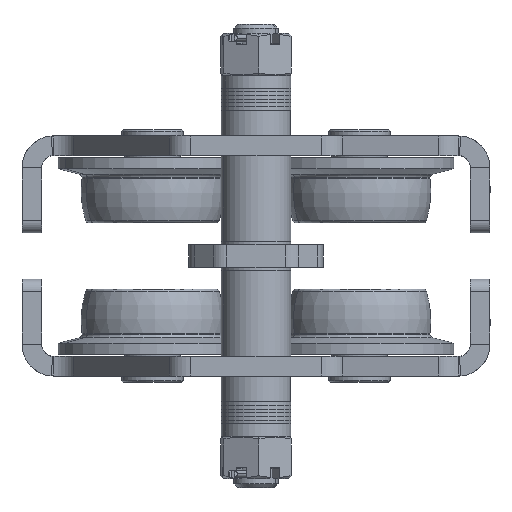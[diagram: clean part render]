
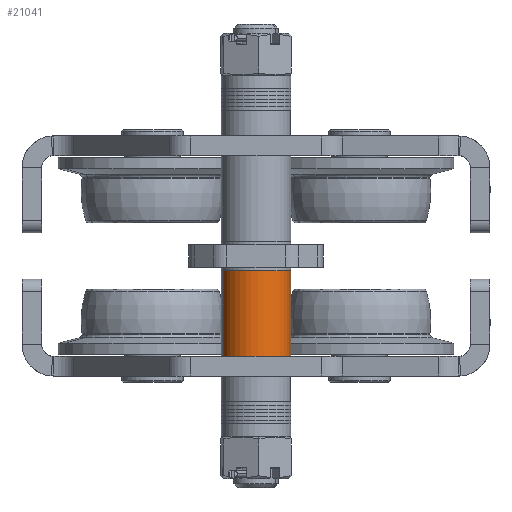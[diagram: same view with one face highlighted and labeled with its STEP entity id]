
A CAD part, front view. The second image highlights one B-rep face of the part: STEP entity #21041.
In plain terms, the highlighted cylindrical face has radius 28.5 mm (diameter 57 mm), a partial arc.
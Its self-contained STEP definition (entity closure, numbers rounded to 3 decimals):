
#42 = CARTESIAN_POINT ( 'NONE',  ( 131.571, -155.685, 140.191 ) ) ;
#2268 = AXIS2_PLACEMENT_3D ( 'NONE', #25465, #13002, #30977 ) ;
#2670 = VERTEX_POINT ( 'NONE', #42 ) ;
#5322 = ORIENTED_EDGE ( 'NONE', *, *, #9835, .F. ) ;
#5357 = DIRECTION ( 'NONE',  ( 0., 0., -1. ) ) ;
#5639 = CARTESIAN_POINT ( 'NONE',  ( 131.571, -155.685, 210.191 ) ) ;
#5930 = ORIENTED_EDGE ( 'NONE', *, *, #21381, .F. ) ;
#6710 = AXIS2_PLACEMENT_3D ( 'NONE', #18352, #5357, #17868 ) ;
#8757 = EDGE_CURVE ( 'NONE', #32628, #31227, #21386, .T. ) ;
#9457 = AXIS2_PLACEMENT_3D ( 'NONE', #21622, #15818, #13072 ) ;
#9568 = VERTEX_POINT ( 'NONE', #10896 ) ;
#9835 = EDGE_CURVE ( 'NONE', #32628, #9568, #30356, .T. ) ;
#10896 = CARTESIAN_POINT ( 'NONE',  ( 184.223, -133.851, 140.191 ) ) ;
#13002 = DIRECTION ( 'NONE',  ( 0., 0., -1. ) ) ;
#13072 = DIRECTION ( 'NONE',  ( -0.924, -0.383, 0. ) ) ;
#13229 = CIRCLE ( 'NONE', #6710, 28.5 ) ;
#14200 = ORIENTED_EDGE ( 'NONE', *, *, #8757, .T. ) ;
#14464 = ORIENTED_EDGE ( 'NONE', *, *, #20791, .T. ) ;
#14775 = CARTESIAN_POINT ( 'NONE',  ( 184.223, -133.851, 210.191 ) ) ;
#15312 = EDGE_LOOP ( 'NONE', ( #5322, #14200, #14464, #5930 ) ) ;
#15818 = DIRECTION ( 'NONE',  ( 0., 0., -1. ) ) ;
#17191 = DIRECTION ( 'NONE',  ( 0., 0., -1. ) ) ;
#17868 = DIRECTION ( 'NONE',  ( -0.924, -0.383, 0. ) ) ;
#18352 = CARTESIAN_POINT ( 'NONE',  ( 157.897, -144.768, 140.191 ) ) ;
#20791 = EDGE_CURVE ( 'NONE', #31227, #2670, #21788, .T. ) ;
#21041 = ADVANCED_FACE ( 'NONE', ( #22259 ), #27191, .T. ) ;
#21381 = EDGE_CURVE ( 'NONE', #9568, #2670, #13229, .T. ) ;
#21386 = CIRCLE ( 'NONE', #9457, 28.5 ) ;
#21622 = CARTESIAN_POINT ( 'NONE',  ( 157.897, -144.768, 210.191 ) ) ;
#21788 = LINE ( 'NONE', #22647, #22382 ) ;
#22259 = FACE_OUTER_BOUND ( 'NONE', #15312, .T. ) ;
#22382 = VECTOR ( 'NONE', #17191, 1000. ) ;
#22647 = CARTESIAN_POINT ( 'NONE',  ( 131.571, -155.685, 116.591 ) ) ;
#23167 = CARTESIAN_POINT ( 'NONE',  ( 184.223, -133.851, 116.591 ) ) ;
#25465 = CARTESIAN_POINT ( 'NONE',  ( 157.897, -144.768, 116.591 ) ) ;
#27191 = CYLINDRICAL_SURFACE ( 'NONE', #2268, 28.5 ) ;
#30202 = VECTOR ( 'NONE', #33570, 1000. ) ;
#30356 = LINE ( 'NONE', #23167, #30202 ) ;
#30977 = DIRECTION ( 'NONE',  ( -0.924, -0.383, 0. ) ) ;
#31227 = VERTEX_POINT ( 'NONE', #5639 ) ;
#32628 = VERTEX_POINT ( 'NONE', #14775 ) ;
#33570 = DIRECTION ( 'NONE',  ( 0., 0., -1. ) ) ;
